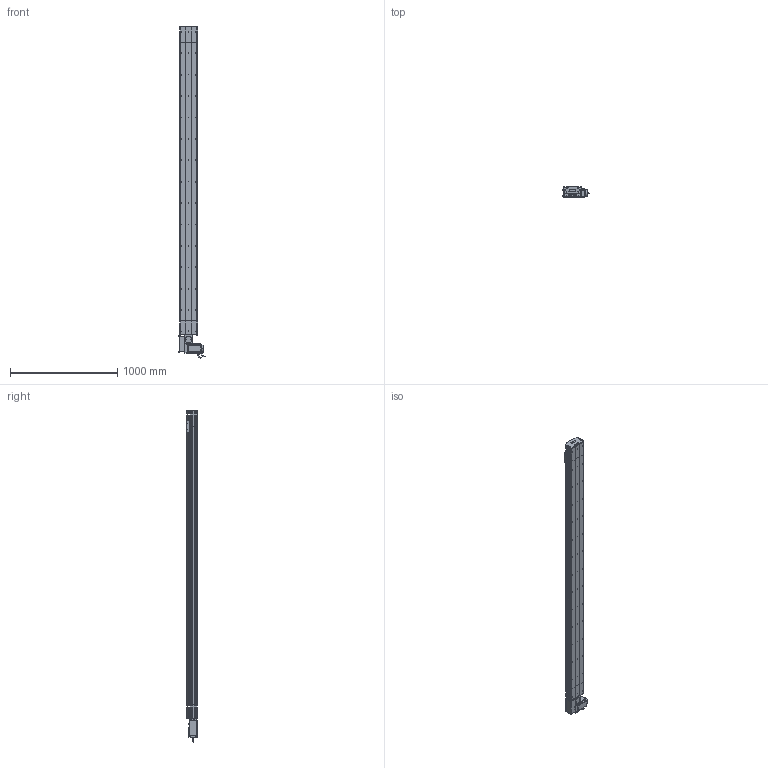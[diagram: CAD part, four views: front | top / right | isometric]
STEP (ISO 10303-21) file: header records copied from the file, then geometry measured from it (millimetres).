
FILE_DESCRIPTION (( 'STEP AP214' ), '1' );
FILE_NAME ('D17 TBN RH S2600.STEP', '2010-06-30T13:02:15', ( 'Conseil Régional Haute-Normandie' ), ( 'Conseil Régional Haute-Normandie' ), 'SwSTEP 2.0', 'SolidWorks 2010', '' );
FILE_SCHEMA (( 'AUTOMOTIVE_DESIGN' ));
Length unit declared in the file: millimetre
Products named in the file (40): D17 TBN RH S2600; guide D17; Chariot D17 TBN; chariot D17 TBN; vis M5 L25_Default; vis M5 L12_Default; vis M5 L8 90°_Default; plaque de  bout tail D17B_Default; Rail D17B; tete d''axe poulie D17B; couvercle D17B_Default; Couroie tail D17B_Default; poulie tail_Default; corpl tail D17B_Default; Tail D17B_Default; Renvoi RH_Default; Vis M5 L16-2_Default; cache arbre D17_Default; corp D17B 2600_Default; Couroie+ rail D17 Course 2600 ; course 2600 D17B_Default; couvercle D17B head_Default; corpl head D17 _Default; Head RH D17B_Default; couvercle D17B course L2600_Default; Arbre+rail head D17B; plaque de  bout head D17B RH_Default; couroie head D17_Default; poulie head_Default; vis M5 L5_Default; cache D17_Default; corps 90BLDC125A-640; avant 90BLDC125A-640; Moteur motionking 90BLDC125A-640; Conecteur_Default; Conecteur2_Default; codeur 90BLDC125-640; vis M5 L16_Default; Plaque racord D17_Default; vis M5 L70_Default
Assembly tree (66 placements, depth 4):
  D17 TBN RH S2600
    course 2600 D17B_Default
      Couroie+ rail D17 Course 2600 
      corp D17B 2600_Default
      couvercle D17B course L2600_Default
    Head RH D17B_Default
      Vis M5 L16-2_Default  x4
      vis M5 L25_Default  x2
      poulie head_Default
      vis M5 L5_Default  x4
      Plaque racord D17_Default
      vis M5 L70_Default  x4
      Renvoi RH_Default
      vis M5 L16_Default  x2
      vis M5 L12_Default  x8
      plaque de  bout head D17B RH_Default
      couroie head D17_Default
      cache D17_Default  x2
      Arbre+rail head D17B
      cache arbre D17_Default
      Moteur motionking 90BLDC125A-640
        codeur 90BLDC125-640
        corps 90BLDC125A-640
        Conecteur_Default
        avant 90BLDC125A-640
        Conecteur2_Default
      couvercle D17B head_Default
      corpl head D17 _Default
    Tail D17B_Default
      plaque de  bout tail D17B_Default
      vis M5 L25_Default  x2
      tete d''axe poulie D17B
      vis M5 L12_Default  x4
      Couroie tail D17B_Default
      poulie tail_Default
      Rail D17B
      corpl tail D17B_Default
      vis M5 L8 90°_Default  x2
      couvercle D17B_Default
    chariot D17 TBN
      guide D17  x2
      Chariot D17 TBN
Bounding box: 245.2 x 105.65 x 3100.95 mm (x, y, z)
Volume: 17249390.8 mm3; surface area: 5019504.2 mm2
Topology: 89 solids, 89 shells, 2627 faces, 6737 edges, 4342 vertices
Faces by surface type: plane 1533, cylinder 797, bspline 136, cone 80, torus 77, sphere 4
Entity records: 85403 total; most frequent: CARTESIAN_POINT 25367, ORIENTED_EDGE 10646, DIRECTION 10052, EDGE_CURVE 5323, VECTOR 3490, LINE 3490, VERTEX_POINT 3486, AXIS2_PLACEMENT_3D 3281
